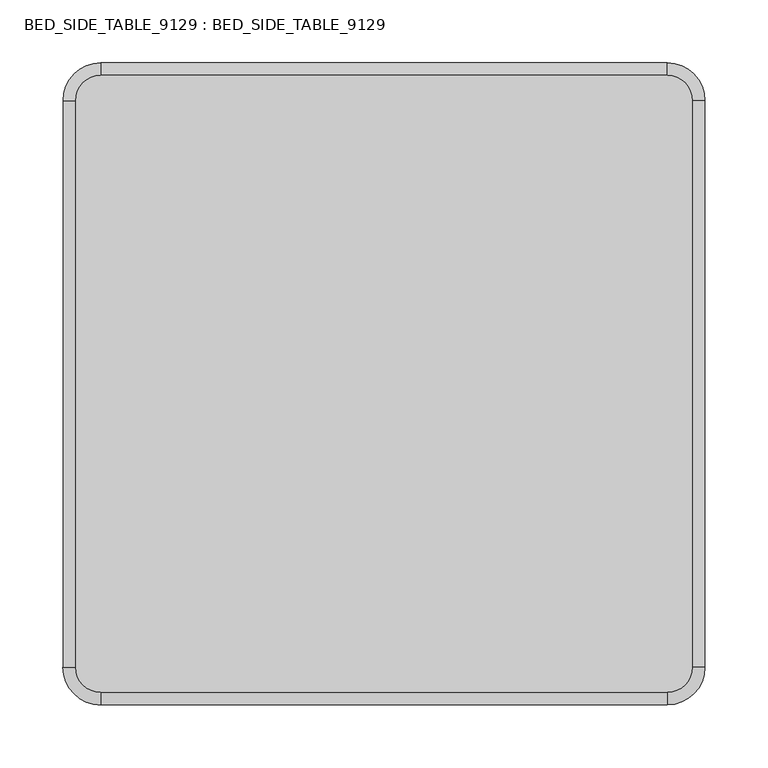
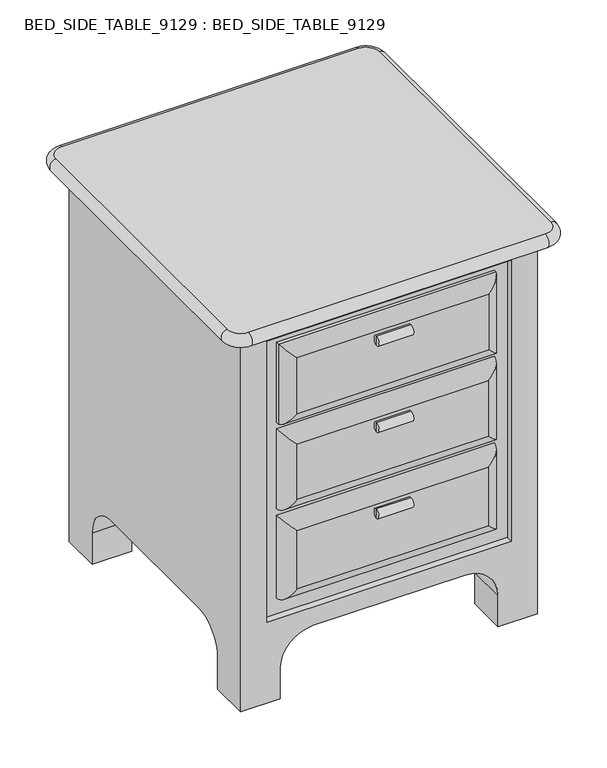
"""IFC4 building model written with IfcOpenShell, lengths in millimetres: furniture geometry, BED_SIDE_TABLE_9129 : BED_SIDE_TABLE_9129."""

from ifc_helpers import new_model, si_unit, point, frame, origin, place, context, project, spatial, polyline, circle_curve, ellipse_curve, trimmed, source, transform, mapped, element, save
from ifc_brep_helpers import plane_surface, cylinder_surface, revolved_surface, advanced_brep


def bed_side_table_9129_bed_side_table_9129_f863d0ea(model_context):
    return source(origin(), model_context, "Body", "AdvancedBrep", [
        advanced_brep(
        [(64.1710576, -203.2220246, 258.3333333), (64.1710576, -203.2220246, 265.7120474), (64.1710576, -203.2220246, 250.9546193), (11.6566154, -203.2220246, 250.9546193), (11.6566154, -203.2220246, 265.7120474), (11.6566154, -203.2220246, 258.3333333)],
        [
            (0, 1),
            (1, 2, circle_curve(frame((64.1710576, -203.2220246, 258.3333333), z_axis=(1.0, 0.0, 0.0), x_axis=(0.0, 0.0, 1.0)), 7.378714)),
            (2, 0),
            (2, 1, circle_curve(frame((64.1710576, -203.2220246, 258.3333333), z_axis=(1.0, 0.0, 0.0), x_axis=(0.0, 0.0, 1.0)), 7.378714)),
            (3, 4, circle_curve(frame((11.6566154, -203.2220246, 258.3333333), z_axis=(-1.0, 0.0, 0.0), x_axis=(0.0, 0.0, 1.0)), 7.378714)),
            (4, 5),
            (5, 3),
            (4, 3, circle_curve(frame((11.6566154, -203.2220246, 258.3333333), z_axis=(-1.0, 0.0, 0.0), x_axis=(0.0, 0.0, 1.0)), 7.378714)),
            (1, 4),
            (3, 2),
        ],
        [
            plane_surface(frame((64.1710576, -203.2220246, 258.3333333), z_axis=(1.0, 0.0, 0.0), x_axis=(0.0, 0.0, 1.0))),
            plane_surface(frame((11.6566154, -203.2220246, 258.3333333), z_axis=(-1.0, 0.0, 0.0), x_axis=(0.0, 0.0, 1.0))),
            cylinder_surface(frame((36.6566154, -203.2220246, 258.3333333), z_axis=(1.0, 0.0, 0.0), x_axis=(0.0, 0.0, 1.0)), 7.378714),
        ],
        [
            (0, [[1, 2, 3]]),
            (0, [[-3, 4, -1]]),
            (1, [[5, 6, 7]]),
            (1, [[8, -7, -6]]),
            (2, [[-2, 9, -5, 10]]),
            (2, [[-4, -10, -8, -9]]),
        ],
    ),
        advanced_brep(
        [(64.1710576, -203.2220246, 396.6666667), (64.1710576, -203.2220246, 404.0453807), (64.1710576, -203.2220246, 389.2879526), (11.6566154, -203.2220246, 389.2879526), (11.6566154, -203.2220246, 404.0453807), (11.6566154, -203.2220246, 396.6666667)],
        [
            (0, 1),
            (1, 2, circle_curve(frame((64.1710576, -203.2220246, 396.6666667), z_axis=(1.0, 0.0, 0.0), x_axis=(0.0, 0.0, 1.0)), 7.378714)),
            (2, 0),
            (2, 1, circle_curve(frame((64.1710576, -203.2220246, 396.6666667), z_axis=(1.0, 0.0, 0.0), x_axis=(0.0, 0.0, 1.0)), 7.378714)),
            (3, 4, circle_curve(frame((11.6566154, -203.2220246, 396.6666667), z_axis=(-1.0, 0.0, 0.0), x_axis=(0.0, 0.0, 1.0)), 7.378714)),
            (4, 5),
            (5, 3),
            (4, 3, circle_curve(frame((11.6566154, -203.2220246, 396.6666667), z_axis=(-1.0, 0.0, 0.0), x_axis=(0.0, 0.0, 1.0)), 7.378714)),
            (1, 4),
            (3, 2),
        ],
        [
            plane_surface(frame((64.1710576, -203.2220246, 396.6666667), z_axis=(1.0, 0.0, 0.0), x_axis=(0.0, 0.0, 1.0))),
            plane_surface(frame((11.6566154, -203.2220246, 396.6666667), z_axis=(-1.0, 0.0, 0.0), x_axis=(0.0, 0.0, 1.0))),
            cylinder_surface(frame((36.6566154, -203.2220246, 396.6666667), z_axis=(1.0, 0.0, 0.0), x_axis=(0.0, 0.0, 1.0)), 7.378714),
        ],
        [
            (0, [[1, 2, 3]]),
            (0, [[-3, 4, -1]]),
            (1, [[5, 6, 7]]),
            (1, [[8, -7, -6]]),
            (2, [[-2, 9, -5, 10]]),
            (2, [[-4, -10, -8, -9]]),
        ],
    ),
        advanced_brep(
        [(64.1710576, -203.2220246, 535.0), (64.1710576, -203.2220246, 542.378714), (64.1710576, -203.2220246, 527.621286), (11.6566154, -203.2220246, 527.621286), (11.6566154, -203.2220246, 542.378714), (11.6566154, -203.2220246, 535.0)],
        [
            (0, 1),
            (1, 2, circle_curve(frame((64.1710576, -203.2220246, 535.0), z_axis=(1.0, 0.0, 0.0), x_axis=(0.0, 0.0, 1.0)), 7.378714)),
            (2, 0),
            (2, 1, circle_curve(frame((64.1710576, -203.2220246, 535.0), z_axis=(1.0, 0.0, 0.0), x_axis=(0.0, 0.0, 1.0)), 7.378714)),
            (3, 4, circle_curve(frame((11.6566154, -203.2220246, 535.0), z_axis=(-1.0, 0.0, 0.0), x_axis=(0.0, 0.0, 1.0)), 7.378714)),
            (4, 5),
            (5, 3),
            (4, 3, circle_curve(frame((11.6566154, -203.2220246, 535.0), z_axis=(-1.0, 0.0, 0.0), x_axis=(0.0, 0.0, 1.0)), 7.378714)),
            (1, 4),
            (3, 2),
        ],
        [
            plane_surface(frame((64.1710576, -203.2220246, 535.0), z_axis=(1.0, 0.0, 0.0), x_axis=(0.0, 0.0, 1.0))),
            plane_surface(frame((11.6566154, -203.2220246, 535.0), z_axis=(-1.0, 0.0, 0.0), x_axis=(0.0, 0.0, 1.0))),
            cylinder_surface(frame((36.6566154, -203.2220246, 535.0), z_axis=(1.0, 0.0, 0.0), x_axis=(0.0, 0.0, 1.0)), 7.378714),
        ],
        [
            (0, [[1, 2, 3]]),
            (0, [[-3, 4, -1]]),
            (1, [[5, 6, 7]]),
            (1, [[8, -7, -6]]),
            (2, [[-2, 9, -5, 10]]),
            (2, [[-4, -10, -8, -9]]),
        ],
    ),
        advanced_brep(
        [(205.0, -177.5292073, 565.0), (205.0, -177.5292073, 436.6666667), (-125.0, -177.5292073, 436.6666667), (-125.0, -177.5292073, 565.0), (-105.5943818, -197.5292073, 545.5943818), (-105.5943818, -197.5292073, 456.0722849), (185.5943818, -197.5292073, 456.0722849), (185.5943818, -197.5292073, 545.5943818), (205.0, -182.3688336, 565.0), (205.0, -182.3688336, 436.6666667), (-125.0, -182.3688336, 436.6666667), (-125.0, -182.3688336, 565.0)],
        [
            (0, 1),
            (1, 2),
            (2, 3),
            (3, 0),
            (4, 5),
            (5, 6),
            (6, 7),
            (7, 4),
            (0, 8),
            (8, 9),
            (9, 1),
            (9, 10),
            (10, 2),
            (10, 11),
            (11, 3),
            (11, 8),
            (10, 5, ellipse_curve(frame((-105.5943818, -177.5292073, 456.0722849), z_axis=(-0.7071067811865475, 0.0, 0.7071067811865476), x_axis=(-0.7071067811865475, 0.0, -0.7071067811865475)), 28.2842712, 20.0)),
            (4, 11, ellipse_curve(frame((-105.5943818, -177.5292073, 545.5943818), z_axis=(-0.7071067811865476, 0.0, -0.7071067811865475), x_axis=(0.7071067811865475, 0.0, -0.7071067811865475)), 28.2842712, 20.0)),
            (9, 6, ellipse_curve(frame((185.5943818, -177.5292073, 456.0722849), z_axis=(-0.7071067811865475, 0.0, -0.7071067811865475), x_axis=(0.7071067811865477, 0.0, -0.7071067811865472)), 28.2842712, 20.0)),
            (8, 7, ellipse_curve(frame((185.5943818, -177.5292073, 545.5943818), z_axis=(0.7071067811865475, 0.0, -0.7071067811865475), x_axis=(0.7071067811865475, 0.0, 0.7071067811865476)), 28.2842712, 20.0)),
        ],
        [
            plane_surface(frame((205.0, -177.5292073, 565.0), z_axis=(0.0, 1.0, 0.0), x_axis=(0.0, 0.0, -1.0))),
            plane_surface(frame((205.0, -197.5292073, 565.0), z_axis=(0.0, -1.0, 0.0), x_axis=(0.0, 0.0, 1.0))),
            plane_surface(frame((205.0, -177.5292073, 565.0), z_axis=(1.0, 0.0, 0.0), x_axis=(0.0, -1.0, 0.0))),
            plane_surface(frame((205.0, -177.5292073, 436.6666667), z_axis=(0.0, 0.0, -1.0), x_axis=(0.0, -1.0, 0.0))),
            plane_surface(frame((-125.0, -177.5292073, 436.6666667), z_axis=(-1.0, 0.0, 0.0), x_axis=(0.0, -1.0, 0.0))),
            plane_surface(frame((-125.0, -177.5292073, 565.0), z_axis=(0.0, 0.0, 1.0), x_axis=(0.0, -1.0, 0.0))),
            cylinder_surface(frame((-105.5943818, -177.5292073, 565.0), z_axis=(0.0, 0.0, -1.0), x_axis=(0.0, -1.0, 0.0)), 20.0),
            cylinder_surface(frame((-125.0, -177.5292073, 456.0722849), z_axis=(1.0, 0.0, 0.0), x_axis=(0.0, -1.0, 0.0)), 20.0),
            cylinder_surface(frame((185.5943818, -177.5292073, 436.6666667), z_axis=(0.0, 0.0, 1.0), x_axis=(0.0, -1.0, 0.0)), 20.0),
            cylinder_surface(frame((205.0, -177.5292073, 545.5943818), z_axis=(-1.0, 0.0, 0.0), x_axis=(0.0, -1.0, 0.0)), 20.0),
        ],
        [
            (0, [[1, 2, 3, 4]]),
            (1, [[5, 6, 7, 8]]),
            (2, [[-1, 9, 10, 11]]),
            (3, [[-2, -11, 12, 13]]),
            (4, [[-3, -13, 14, 15]]),
            (5, [[-4, -15, 16, -9]]),
            (6, [[17, -5, 18, -14]]),
            (7, [[19, -6, -17, -12]]),
            (8, [[20, -7, -19, -10]]),
            (9, [[-20, -16, -18, -8]]),
        ],
    ),
        advanced_brep(
        [(-125.0, -177.5292073, 298.3333333), (-125.0, -177.5292073, 426.6666667), (205.0, -177.5292073, 426.6666667), (205.0, -177.5292073, 298.3333333), (-105.0, -197.5292073, 406.6666667), (-105.0, -197.5292073, 318.3333333), (185.0, -197.5292073, 318.3333333), (185.0, -197.5292073, 406.6666667)],
        [
            (0, 1),
            (1, 2),
            (2, 3),
            (3, 0),
            (4, 5),
            (5, 6),
            (6, 7),
            (7, 4),
            (0, 5, ellipse_curve(frame((-105.0, -177.5292073, 318.3333333), z_axis=(-0.7071067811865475, 0.0, 0.7071067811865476), x_axis=(-0.7071067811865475, 0.0, -0.7071067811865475)), 28.2842712, 20.0)),
            (4, 1, ellipse_curve(frame((-105.0, -177.5292073, 406.6666667), z_axis=(-0.7071067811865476, 0.0, -0.7071067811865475), x_axis=(0.7071067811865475, 0.0, -0.7071067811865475)), 28.2842712, 20.0)),
            (3, 6, ellipse_curve(frame((185.0, -177.5292073, 318.3333333), z_axis=(-0.7071067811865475, 0.0, -0.7071067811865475), x_axis=(0.7071067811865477, 0.0, -0.7071067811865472)), 28.2842712, 20.0)),
            (2, 7, ellipse_curve(frame((185.0, -177.5292073, 406.6666667), z_axis=(0.7071067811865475, 0.0, -0.7071067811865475), x_axis=(0.7071067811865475, 0.0, 0.7071067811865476)), 28.2842712, 20.0)),
        ],
        [
            plane_surface(frame((205.0, -177.5292073, 565.0), z_axis=(0.0, 1.0, 0.0), x_axis=(0.0, 0.0, -1.0))),
            plane_surface(frame((205.0, -197.5292073, 565.0), z_axis=(0.0, -1.0, 0.0), x_axis=(0.0, 0.0, 1.0))),
            cylinder_surface(frame((-105.0, -177.5292073, 426.6666667), z_axis=(0.0, 0.0, -1.0), x_axis=(0.0, -1.0, 0.0)), 20.0),
            cylinder_surface(frame((-125.0, -177.5292073, 318.3333333), z_axis=(1.0, 0.0, 0.0), x_axis=(0.0, -1.0, 0.0)), 20.0),
            cylinder_surface(frame((185.0, -177.5292073, 298.3333333), z_axis=(0.0, 0.0, 1.0), x_axis=(0.0, -1.0, 0.0)), 20.0),
            cylinder_surface(frame((205.0, -177.5292073, 406.6666667), z_axis=(-1.0, 0.0, 0.0), x_axis=(0.0, -1.0, 0.0)), 20.0),
        ],
        [
            (0, [[1, 2, 3, 4]]),
            (1, [[5, 6, 7, 8]]),
            (2, [[9, -5, 10, -1]]),
            (3, [[-9, -4, 11, -6]]),
            (4, [[-11, -3, 12, -7]]),
            (5, [[-10, -8, -12, -2]]),
        ],
    ),
        advanced_brep(
        [(-125.0, -177.5292073, 155.0), (-125.0, -177.5292073, 288.3333333), (205.0, -177.5292073, 288.3333333), (205.0, -177.5292073, 155.0), (-105.0, -197.5292073, 268.3333333), (-105.0, -197.5292073, 175.0), (185.0, -197.5292073, 175.0), (185.0, -197.5292073, 268.3333333)],
        [
            (0, 1),
            (1, 2),
            (2, 3),
            (3, 0),
            (4, 5),
            (5, 6),
            (6, 7),
            (7, 4),
            (0, 5, ellipse_curve(frame((-105.0, -177.5292073, 175.0), z_axis=(-0.7071067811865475, 0.0, 0.7071067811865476), x_axis=(-0.7071067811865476, 0.0, -0.7071067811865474)), 28.2842712, 20.0)),
            (4, 1, ellipse_curve(frame((-105.0, -177.5292073, 268.3333333), z_axis=(-0.7071067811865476, 0.0, -0.7071067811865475), x_axis=(0.7071067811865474, 0.0, -0.7071067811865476)), 28.2842712, 20.0)),
            (3, 6, ellipse_curve(frame((185.0, -177.5292073, 175.0), z_axis=(-0.7071067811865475, 0.0, -0.7071067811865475), x_axis=(0.7071067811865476, 0.0, -0.7071067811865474)), 28.2842712, 20.0)),
            (2, 7, ellipse_curve(frame((185.0, -177.5292073, 268.3333333), z_axis=(0.7071067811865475, 0.0, -0.7071067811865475), x_axis=(0.7071067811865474, 0.0, 0.7071067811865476)), 28.2842712, 20.0)),
        ],
        [
            plane_surface(frame((205.0, -177.5292073, 565.0), z_axis=(0.0, 1.0, 0.0), x_axis=(0.0, 0.0, -1.0))),
            plane_surface(frame((205.0, -197.5292073, 565.0), z_axis=(0.0, -1.0, 0.0), x_axis=(0.0, 0.0, 1.0))),
            cylinder_surface(frame((-105.0, -177.5292073, 288.3333333), z_axis=(0.0, 0.0, -1.0), x_axis=(0.0, -1.0, 0.0)), 20.0),
            cylinder_surface(frame((-125.0, -177.5292073, 175.0), z_axis=(1.0, 0.0, 0.0), x_axis=(0.0, -1.0, 0.0)), 20.0),
            cylinder_surface(frame((185.0, -177.5292073, 155.0), z_axis=(0.0, 0.0, 1.0), x_axis=(0.0, -1.0, 0.0)), 20.0),
            cylinder_surface(frame((205.0, -177.5292073, 268.3333333), z_axis=(-1.0, 0.0, 0.0), x_axis=(0.0, -1.0, 0.0)), 20.0),
        ],
        [
            (0, [[1, 2, 3, 4]]),
            (1, [[5, 6, 7, 8]]),
            (2, [[9, -5, 10, -1]]),
            (3, [[-9, -4, 11, -6]]),
            (4, [[-11, -3, 12, -7]]),
            (5, [[-10, -8, -12, -2]]),
        ],
    ),
        advanced_brep(
        [(-205.0, 262.4707927, 600.0), (-185.0, 282.4707927, 600.0), (265.0, 282.4707927, 600.0), (285.0, 262.4707927, 600.0), (285.0, -187.5292073, 600.0), (265.0, -207.5292073, 600.0), (-185.0, -207.5292073, 600.0), (-205.0, -187.5292073, 600.0), (-185.0, 282.4707927, 620.0), (-205.0, 262.4707927, 620.0), (-205.0, -187.5292073, 620.0), (-185.0, -207.5292073, 620.0), (265.0, -207.5292073, 620.0), (285.0, -187.5292073, 620.0), (285.0, 262.4707927, 620.0), (265.0, 282.4707927, 620.0), (-185.0, 292.4707927, 610.0000125), (-215.0, 262.4707927, 610.0000123), (-215.0, -187.5292073, 610.0), (-185.0, -217.5292073, 610.0000122), (265.0, -217.5292073, 610.0), (295.0, -187.5292073, 610.0000111), (295.0, 262.4707927, 610.0), (265.0, 292.4707927, 610.0000096)],
        [
            (0, 1, circle_curve(frame((-185.0, 262.4707927, 600.0), z_axis=(0.0, 0.0, -1.0), x_axis=(0.0, 1.0, 0.0)), 20.0)),
            (1, 2),
            (2, 3, circle_curve(frame((265.0, 262.4707927, 600.0), z_axis=(0.0, 0.0, -1.0), x_axis=(1.0, 0.0, 0.0)), 20.0)),
            (3, 4),
            (4, 5, circle_curve(frame((265.0, -187.5292073, 600.0), z_axis=(0.0, 0.0, -1.0), x_axis=(0.0, -1.0, 0.0)), 20.0)),
            (5, 6),
            (6, 7, circle_curve(frame((-185.0, -187.5292073, 600.0), z_axis=(0.0, 0.0, -1.0), x_axis=(-1.0, 0.0, 0.0)), 20.0)),
            (7, 0),
            (8, 9, circle_curve(frame((-185.0, 262.4707927, 620.0), z_axis=(0.0, 0.0, 1.0), x_axis=(0.0, 1.0, 0.0)), 20.0)),
            (9, 10),
            (10, 11, circle_curve(frame((-185.0, -187.5292073, 620.0), z_axis=(0.0, 0.0, 1.0), x_axis=(-1.0, 0.0, 0.0)), 20.0)),
            (11, 12),
            (12, 13, circle_curve(frame((265.0, -187.5292073, 620.0), z_axis=(0.0, 0.0, 1.0), x_axis=(0.0, -1.0, 0.0)), 20.0)),
            (13, 14),
            (14, 15, circle_curve(frame((265.0, 262.4707927, 620.0), z_axis=(0.0, 0.0, 1.0), x_axis=(1.0, 0.0, 0.0)), 20.0)),
            (15, 8),
            (8, 16, circle_curve(frame((-185.0, 282.4707927, 610.0), z_axis=(-1.0, 0.0, 0.0), x_axis=(0.0, -1.0, 0.0)), 10.0)),
            (16, 1, circle_curve(frame((-185.0, 282.4707927, 610.0), z_axis=(-1.0, 0.0, 0.0), x_axis=(0.0, -1.0, 0.0)), 10.0)),
            (0, 17, circle_curve(frame((-205.0, 262.4707927, 610.0), z_axis=(0.0, 1.0, 0.0), x_axis=(1.0, 0.0, 0.0)), 10.0)),
            (17, 9, circle_curve(frame((-205.0, 262.4707927, 610.0), z_axis=(0.0, 1.0, 0.0), x_axis=(1.0, 0.0, 0.0)), 10.0)),
            (7, 18, circle_curve(frame((-205.0, -187.5292073, 610.0), z_axis=(0.0, 1.0, 0.0), x_axis=(1.0, 0.0, 0.0)), 10.0)),
            (18, 10, circle_curve(frame((-205.0, -187.5292073, 610.0), z_axis=(0.0, 1.0, 0.0), x_axis=(1.0, 0.0, 0.0)), 10.0)),
            (6, 19, circle_curve(frame((-185.0, -207.5292073, 610.0), z_axis=(-1.0, 0.0, 0.0), x_axis=(0.0, 1.0, 0.0)), 10.0)),
            (19, 11, circle_curve(frame((-185.0, -207.5292073, 610.0), z_axis=(-1.0, 0.0, 0.0), x_axis=(0.0, 1.0, 0.0)), 10.0)),
            (5, 20, circle_curve(frame((265.0, -207.5292073, 610.0), z_axis=(-1.0, 0.0, 0.0), x_axis=(0.0, 1.0, 0.0)), 10.0)),
            (20, 12, circle_curve(frame((265.0, -207.5292073, 610.0), z_axis=(-1.0, 0.0, 0.0), x_axis=(0.0, 1.0, 0.0)), 10.0)),
            (4, 21, circle_curve(frame((285.0, -187.5292073, 610.0), z_axis=(0.0, -1.0, 0.0), x_axis=(-1.0, 0.0, 0.0)), 10.0)),
            (21, 13, circle_curve(frame((285.0, -187.5292073, 610.0), z_axis=(0.0, -1.0, 0.0), x_axis=(-1.0, 0.0, 0.0)), 10.0)),
            (3, 22, circle_curve(frame((285.0, 262.4707927, 610.0), z_axis=(0.0, -1.0, 0.0), x_axis=(-1.0, 0.0, 0.0)), 10.0)),
            (22, 14, circle_curve(frame((285.0, 262.4707927, 610.0), z_axis=(0.0, -1.0, 0.0), x_axis=(-1.0, 0.0, 0.0)), 10.0)),
            (2, 23, circle_curve(frame((265.0, 282.4707927, 610.0), z_axis=(1.0, 0.0, 0.0), x_axis=(0.0, -1.0, 0.0)), 10.0)),
            (23, 15, circle_curve(frame((265.0, 282.4707927, 610.0), z_axis=(1.0, 0.0, 0.0), x_axis=(0.0, -1.0, 0.0)), 10.0)),
        ],
        [
            plane_surface(frame((-185.0, 292.4707927, 600.0), z_axis=(0.0, 0.0, -1.0), x_axis=(1.0, 0.0, 0.0))),
            plane_surface(frame((-185.0, 292.4707927, 620.0), z_axis=(0.0, 0.0, 1.0), x_axis=(-1.0, 0.0, 0.0))),
            revolved_surface(trimmed(ellipse_curve(frame((-185.0, 282.4707927, 610.0), z_axis=(1.0, 0.0, 0.0), x_axis=(0.0, -1.0, 0.0)), 10.0, 10.0), [point((-185.0, 282.4707927, 600.0))], [point((-185.0, 282.4707927, 620.0))], True, "CARTESIAN"), (-185.0, 262.4707927, 620.0), (0.0, 0.0, 1.0)),
            cylinder_surface(frame((-205.0, 262.4707927, 610.0), z_axis=(0.0, -1.0, 0.0), x_axis=(1.0, 0.0, 0.0)), 10.0),
            revolved_surface(trimmed(ellipse_curve(frame((-205.0, -187.5292073, 610.0), z_axis=(0.0, 1.0, 0.0), x_axis=(1.0, 0.0, 0.0)), 10.0, 10.0), [point((-205.0, -187.5292073, 600.0))], [point((-205.0, -187.5292073, 620.0))], True, "CARTESIAN"), (-185.0, -187.5292073, 620.0), (0.0, 0.0, 1.0)),
            cylinder_surface(frame((-185.0, -207.5292073, 610.0), z_axis=(1.0, 0.0, 0.0), x_axis=(0.0, 1.0, 0.0)), 10.0),
            revolved_surface(trimmed(ellipse_curve(frame((265.0, -207.5292073, 610.0), z_axis=(-1.0, 0.0, 0.0), x_axis=(0.0, 1.0, 0.0)), 10.0, 10.0), [point((265.0, -207.5292073, 600.0))], [point((265.0, -207.5292073, 620.0))], True, "CARTESIAN"), (265.0, -187.5292073, 620.0), (0.0, 0.0, 1.0)),
            cylinder_surface(frame((285.0, -187.5292073, 610.0), z_axis=(0.0, 1.0, 0.0), x_axis=(-1.0, 0.0, 0.0)), 10.0),
            revolved_surface(trimmed(ellipse_curve(frame((285.0, 262.4707927, 610.0), z_axis=(0.0, -1.0, 0.0), x_axis=(-1.0, 0.0, 0.0)), 10.0, 10.0), [point((285.0, 262.4707927, 600.0))], [point((285.0, 262.4707927, 620.0))], True, "CARTESIAN"), (265.0, 262.4707927, 620.0), (0.0, 0.0, 1.0)),
            cylinder_surface(frame((265.0, 282.4707927, 610.0), z_axis=(-1.0, 0.0, 0.0), x_axis=(0.0, -1.0, 0.0)), 10.0),
        ],
        [
            (0, [[1, 2, 3, 4, 5, 6, 7, 8]]),
            (1, [[9, 10, 11, 12, 13, 14, 15, 16]]),
            (2, [[17, 18, -1, 19, 20, -9]]),
            (3, [[-19, -8, 21, 22, -10, -20]]),
            (4, [[-21, -7, 23, 24, -11, -22]]),
            (5, [[-23, -6, 25, 26, -12, -24]]),
            (6, [[-25, -5, 27, 28, -13, -26]]),
            (7, [[-27, -4, 29, 30, -14, -28]]),
            (8, [[31, 32, -15, -30, -29, -3]]),
            (9, [[-31, -2, -18, -17, -16, -32]]),
        ],
    ),
        advanced_brep(
        [(265.0, 262.4707927, 600.0), (265.0, 262.4707927, 0.0), (205.0, 262.4707927, 0.0), (205.0, 262.4707927, 50.0), (155.0, 262.4707927, 100.0), (-75.0, 262.4707927, 100.0), (-125.0, 262.4707927, 50.0), (-125.0, 262.4707927, 0.0), (-185.0, 262.4707927, 0.0), (-185.0, 262.4707927, 600.0), (265.0, -187.5292073, 600.0), (-185.0, -187.5292073, 600.0), (-185.0, -187.5292073, 0.0), (-125.0, -187.5292073, 0.0), (-125.0, -187.5292073, 50.0), (-75.0, -187.5292073, 100.0), (155.0, -187.5292073, 100.0), (205.0, -187.5292073, 50.0), (205.0, -187.5292073, 0.0), (265.0, -187.5292073, 0.0), (-145.0, -187.5292073, 580.0), (225.0, -187.5292073, 580.0), (225.0, -187.5292073, 130.0), (-145.0, -187.5292073, 130.0), (265.0, -127.5292073, 0.0), (265.0, -127.5292073, 50.0), (265.0, -77.5292073, 100.0), (265.0, 152.4707927, 100.0), (265.0, 202.4707927, 50.0), (265.0, 202.4707927, 0.0), (265.0, -102.5292073, 570.0), (265.0, 177.4707927, 570.0), (265.0, 202.4707927, 545.0), (265.0, 202.4707927, 180.0), (265.0, 177.4707927, 155.0), (265.0, -102.5292073, 155.0), (265.0, -127.5292073, 180.0), (265.0, -127.5292073, 545.0), (265.0, 177.4707927, 550.0), (265.0, -102.5292073, 550.0), (265.0, -107.5292073, 545.0), (265.0, -107.5292073, 180.0), (265.0, -102.5292073, 175.0), (265.0, 177.4707927, 175.0), (265.0, 182.4707927, 180.0), (265.0, 182.4707927, 545.0), (205.0, 202.4707927, 0.0), (-125.0, 202.4707927, 0.0), (-185.0, 202.4707927, 0.0), (-185.0, -127.5292073, 0.0), (-125.0, -127.5292073, 0.0), (205.0, -127.5292073, 0.0), (-185.0, 202.4707927, 50.0), (-185.0, 152.4707927, 100.0), (-185.0, -77.5292073, 100.0), (-185.0, -127.5292073, 50.0), (-75.0, 152.4707927, 100.0), (-125.0, 202.4707927, 50.0), (-125.0, -127.5292073, 50.0), (-75.0, -77.5292073, 100.0), (155.0, 152.4707927, 100.0), (155.0, -77.5292073, 100.0), (205.0, 202.4707927, 50.0), (205.0, -127.5292073, 50.0), (-145.0, -177.5292073, 580.0), (-145.0, -177.5292073, 130.0), (225.0, -177.5292073, 130.0), (225.0, -177.5292073, 580.0), (255.0, 177.4707927, 570.0), (255.0, -102.5292073, 570.0), (255.0, -127.5292073, 545.0), (255.0, -127.5292073, 180.0), (255.0, -102.5292073, 155.0), (255.0, 177.4707927, 155.0), (255.0, 202.4707927, 180.0), (255.0, 202.4707927, 545.0), (255.0, -102.5292073, 550.0), (255.0, 177.4707927, 550.0), (255.0, 182.4707927, 545.0), (255.0, 182.4707927, 180.0), (255.0, 177.4707927, 175.0), (255.0, -102.5292073, 175.0), (255.0, -107.5292073, 180.0), (255.0, -107.5292073, 545.0)],
        [
            (0, 1),
            (1, 2),
            (2, 3),
            (3, 4, circle_curve(frame((155.0, 262.4707927, 50.0), z_axis=(0.0, -1.0, 0.0), x_axis=(-1.0, 0.0, 0.0)), 50.0)),
            (4, 5),
            (5, 6, circle_curve(frame((-75.0, 262.4707927, 50.0), z_axis=(0.0, -1.0, 0.0), x_axis=(-1.0, 0.0, 0.0)), 50.0)),
            (6, 7),
            (7, 8),
            (8, 9),
            (9, 0),
            (10, 11),
            (11, 12),
            (12, 13),
            (13, 14),
            (14, 15, circle_curve(frame((-75.0, -187.5292073, 50.0), z_axis=(0.0, 1.0, 0.0), x_axis=(-1.0, 0.0, 0.0)), 50.0)),
            (15, 16),
            (16, 17, circle_curve(frame((155.0, -187.5292073, 50.0), z_axis=(0.0, 1.0, 0.0), x_axis=(-1.0, 0.0, 0.0)), 50.0)),
            (17, 18),
            (18, 19),
            (19, 10),
            (20, 21),
            (21, 22),
            (22, 23),
            (23, 20),
            (0, 10),
            (19, 24),
            (24, 25),
            (25, 26, circle_curve(frame((265.0, -77.5292073, 50.0), z_axis=(-1.0, 0.0, 0.0), x_axis=(0.0, 1.0, 0.0)), 50.0)),
            (26, 27),
            (27, 28, circle_curve(frame((265.0, 152.4707927, 50.0), z_axis=(-1.0, 0.0, 0.0), x_axis=(0.0, 1.0, 0.0)), 50.0)),
            (28, 29),
            (29, 1),
            (30, 31),
            (31, 32, circle_curve(frame((265.0, 177.4707927, 545.0), z_axis=(-1.0, 0.0, 0.0), x_axis=(0.0, 1.0, 0.0)), 25.0)),
            (32, 33),
            (33, 34, circle_curve(frame((265.0, 177.4707927, 180.0), z_axis=(-1.0, 0.0, 0.0), x_axis=(0.0, 1.0, 0.0)), 25.0)),
            (34, 35),
            (35, 36, circle_curve(frame((265.0, -102.5292073, 180.0), z_axis=(-1.0, 0.0, 0.0), x_axis=(0.0, 1.0, 0.0)), 25.0)),
            (36, 37),
            (37, 30, circle_curve(frame((265.0, -102.5292073, 545.0), z_axis=(-1.0, 0.0, 0.0), x_axis=(0.0, 1.0, 0.0)), 25.0)),
            (38, 39),
            (39, 40, circle_curve(frame((265.0, -102.5292073, 545.0), z_axis=(1.0, 0.0, 0.0), x_axis=(0.0, 1.0, 0.0)), 5.0)),
            (40, 41),
            (41, 42, circle_curve(frame((265.0, -102.5292073, 180.0), z_axis=(1.0, 0.0, 0.0), x_axis=(0.0, 1.0, 0.0)), 5.0)),
            (42, 43),
            (43, 44, circle_curve(frame((265.0, 177.4707927, 180.0), z_axis=(1.0, 0.0, 0.0), x_axis=(0.0, 1.0, 0.0)), 5.0)),
            (44, 45),
            (45, 38, circle_curve(frame((265.0, 177.4707927, 545.0), z_axis=(1.0, 0.0, 0.0), x_axis=(0.0, 1.0, 0.0)), 5.0)),
            (29, 46),
            (46, 2),
            (7, 47),
            (47, 48),
            (48, 8),
            (12, 49),
            (49, 50),
            (50, 13),
            (18, 51),
            (51, 24),
            (48, 52),
            (52, 53, circle_curve(frame((-185.0, 152.4707927, 50.0), z_axis=(1.0, 0.0, 0.0), x_axis=(0.0, 1.0, 0.0)), 50.0)),
            (53, 54),
            (54, 55, circle_curve(frame((-185.0, -77.5292073, 50.0), z_axis=(1.0, 0.0, 0.0), x_axis=(0.0, 1.0, 0.0)), 50.0)),
            (55, 49),
            (11, 9),
            (5, 56),
            (56, 57, ellipse_curve(frame((-75.0, 152.4707927, 50.0), z_axis=(-0.7071067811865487, -0.7071067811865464, 0.0), x_axis=(-0.7071067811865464, 0.7071067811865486, 0.0)), 70.7106781, 50.0)),
            (57, 6),
            (14, 58),
            (58, 59, ellipse_curve(frame((-75.0, -77.5292073, 50.0), z_axis=(-0.7071067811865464, 0.7071067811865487, 0.0), x_axis=(0.7071067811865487, 0.7071067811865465, 0.0)), 70.7106781, 50.0)),
            (59, 15),
            (4, 60),
            (60, 27),
            (26, 61),
            (61, 16),
            (59, 54),
            (53, 56),
            (3, 62),
            (62, 60, ellipse_curve(frame((155.0, 152.4707927, 50.0), z_axis=(0.7071067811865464, -0.7071067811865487, 0.0), x_axis=(0.7071067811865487, 0.7071067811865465, 0.0)), 70.7106781, 50.0)),
            (61, 63, ellipse_curve(frame((155.0, -77.5292073, 50.0), z_axis=(0.7071067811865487, 0.7071067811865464, 0.0), x_axis=(-0.7071067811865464, 0.7071067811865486, 0.0)), 70.7106781, 50.0)),
            (63, 17),
            (46, 62),
            (63, 51),
            (57, 47),
            (50, 58),
            (25, 63),
            (58, 55),
            (57, 52),
            (28, 62),
            (64, 65),
            (65, 66),
            (66, 67),
            (67, 64),
            (67, 21),
            (20, 64),
            (66, 22),
            (65, 23),
            (68, 69),
            (69, 70, circle_curve(frame((255.0, -102.5292073, 545.0), z_axis=(1.0, 0.0, 0.0), x_axis=(0.0, 1.0, 0.0)), 25.0)),
            (70, 71),
            (71, 72, circle_curve(frame((255.0, -102.5292073, 180.0), z_axis=(1.0, 0.0, 0.0), x_axis=(0.0, 1.0, 0.0)), 25.0)),
            (72, 73),
            (73, 74, circle_curve(frame((255.0, 177.4707927, 180.0), z_axis=(1.0, 0.0, 0.0), x_axis=(0.0, 1.0, 0.0)), 25.0)),
            (74, 75),
            (75, 68, circle_curve(frame((255.0, 177.4707927, 545.0), z_axis=(1.0, 0.0, 0.0), x_axis=(0.0, 1.0, 0.0)), 25.0)),
            (76, 77),
            (77, 78, circle_curve(frame((255.0, 177.4707927, 545.0), z_axis=(-1.0, 0.0, 0.0), x_axis=(0.0, 1.0, 0.0)), 5.0)),
            (78, 79),
            (79, 80, circle_curve(frame((255.0, 177.4707927, 180.0), z_axis=(-1.0, 0.0, 0.0), x_axis=(0.0, 1.0, 0.0)), 5.0)),
            (80, 81),
            (81, 82, circle_curve(frame((255.0, -102.5292073, 180.0), z_axis=(-1.0, 0.0, 0.0), x_axis=(0.0, 1.0, 0.0)), 5.0)),
            (82, 83),
            (83, 76, circle_curve(frame((255.0, -102.5292073, 545.0), z_axis=(-1.0, 0.0, 0.0), x_axis=(0.0, 1.0, 0.0)), 5.0)),
            (68, 31),
            (30, 69),
            (37, 70),
            (36, 71),
            (35, 72),
            (34, 73),
            (33, 74),
            (32, 75),
            (76, 39),
            (38, 77),
            (45, 78),
            (44, 79),
            (43, 80),
            (42, 81),
            (41, 82),
            (40, 83),
        ],
        [
            plane_surface(frame((265.0, 262.4707927, 600.0), z_axis=(0.0, 1.0, 0.0), x_axis=(0.0, 0.0, -1.0))),
            plane_surface(frame((265.0, -187.5292073, 600.0), z_axis=(0.0, -1.0, 0.0), x_axis=(0.0, 0.0, 1.0))),
            plane_surface(frame((265.0, 262.4707927, 600.0), z_axis=(1.0, 0.0, 0.0), x_axis=(0.0, -1.0, 0.0))),
            plane_surface(frame((265.0, 262.4707927, 0.0), z_axis=(0.0, 0.0, -1.0), x_axis=(0.0, -1.0, 0.0))),
            plane_surface(frame((-185.0, 262.4707927, 0.0), z_axis=(-1.0, 0.0, 0.0), x_axis=(0.0, -1.0, 0.0))),
            plane_surface(frame((-185.0, 262.4707927, 600.0), z_axis=(0.0, 0.0, 1.0), x_axis=(0.0, -1.0, 0.0))),
            revolved_surface(polyline([(-125.0, 262.4707927, 50.0), (-125.0, 102.47079271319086, 50.0)]), (-75.0, -187.5292073, 50.0), (0.0, 1.0, 0.0)),
            revolved_surface(polyline([(-125.0, -27.529207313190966, 50.0), (-125.0, -187.5292073, 50.0)]), (-75.0, -187.5292073, 50.0), (0.0, 1.0, 0.0)),
            plane_surface(frame((-75.0, 287.4707927, 100.0), z_axis=(0.0, 0.0, -1.0), x_axis=(0.0, -1.0, 0.0))),
            revolved_surface(polyline([(105.0, 262.4707927, 50.0), (105.0, 102.47079271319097, 50.0)]), (155.0, -187.5292073, 50.0), (0.0, 1.0, 0.0)),
            revolved_surface(polyline([(105.0, -27.529207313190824, 50.0), (105.0, -187.5292073, 50.0)]), (155.0, -187.5292073, 50.0), (0.0, 1.0, 0.0)),
            plane_surface(frame((205.0, 287.4707927, 50.0), z_axis=(-1.0, 0.0, 0.0), x_axis=(0.0, -1.0, 0.0))),
            plane_surface(frame((-125.0, 287.4707927, 0.0), z_axis=(1.0, 0.0, 0.0), x_axis=(0.0, -1.0, 0.0))),
            revolved_surface(polyline([(265.0, -27.529207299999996, 50.0), (105.00000001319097, -27.529207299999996, 50.0)]), (-185.0, -77.5292073, 50.0), (1.0, 0.0, 0.0)),
            revolved_surface(polyline([(-25.000000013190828, -27.529207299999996, 50.0), (-185.0, -27.529207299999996, 50.0)]), (-185.0, -77.5292073, 50.0), (1.0, 0.0, 0.0)),
            plane_surface(frame((265.0, -127.5292073, 50.0), z_axis=(0.0, 1.0, 0.0), x_axis=(-1.0, 0.0, 0.0))),
            plane_surface(frame((265.0, 202.4707927, 0.0), z_axis=(0.0, -1.0, 0.0), x_axis=(-1.0, 0.0, 0.0))),
            revolved_surface(polyline([(265.0, 202.4707927, 50.0), (105.0000000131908, 202.4707927, 50.0)]), (-185.0, 152.4707927, 50.0), (1.0, 0.0, 0.0)),
            revolved_surface(polyline([(-25.000000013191, 202.4707927, 50.0), (-185.0, 202.4707927, 50.0)]), (-185.0, 152.4707927, 50.0), (1.0, 0.0, 0.0)),
            plane_surface(frame((-145.0, -177.5292073, 580.0), z_axis=(0.0, -1.0, 0.0), x_axis=(1.0, 0.0, 0.0))),
            plane_surface(frame((-145.0, -177.5292073, 580.0), z_axis=(0.0, 0.0, -1.0), x_axis=(0.0, -1.0, 0.0))),
            plane_surface(frame((225.0, -177.5292073, 580.0), z_axis=(-1.0, 0.0, 0.0), x_axis=(0.0, -1.0, 0.0))),
            plane_surface(frame((225.0, -177.5292073, 130.0), z_axis=(0.0, 0.0, 1.0), x_axis=(0.0, -1.0, 0.0))),
            plane_surface(frame((-145.0, -177.5292073, 130.0), z_axis=(1.0, 0.0, 0.0), x_axis=(0.0, -1.0, 0.0))),
            plane_surface(frame((255.0, -102.5292073, 570.0), z_axis=(1.0, 0.0, 0.0), x_axis=(0.0, 1.0, 0.0))),
            plane_surface(frame((265.0, 177.4707927, 570.0), z_axis=(0.0, 0.0, -1.0), x_axis=(-1.0, 0.0, 0.0))),
            revolved_surface(polyline([(265.0, -77.5292073, 545.0), (255.0, -77.5292073, 545.0)]), (255.0, -102.5292073, 545.0), (1.0, 0.0, 0.0)),
            plane_surface(frame((265.0, -127.5292073, 545.0), z_axis=(0.0, 1.0, 0.0), x_axis=(-1.0, 0.0, 0.0))),
            revolved_surface(polyline([(265.0, -77.5292073, 180.0), (255.0, -77.5292073, 180.0)]), (255.0, -102.5292073, 180.0), (1.0, 0.0, 0.0)),
            plane_surface(frame((265.0, -102.5292073, 155.0), z_axis=(0.0, 0.0, 1.0), x_axis=(-1.0, 0.0, 0.0))),
            revolved_surface(polyline([(265.0, 202.4707927, 180.0), (255.0, 202.4707927, 180.0)]), (255.0, 177.4707927, 180.0), (1.0, 0.0, 0.0)),
            plane_surface(frame((265.0, 202.4707927, 180.0), z_axis=(0.0, -1.0, 0.0), x_axis=(-1.0, 0.0, 0.0))),
            revolved_surface(polyline([(265.0, 202.4707927, 545.0), (255.0, 202.4707927, 545.0)]), (255.0, 177.4707927, 545.0), (1.0, 0.0, 0.0)),
            plane_surface(frame((265.0, -102.5292073, 550.0), z_axis=(0.0, 0.0, 1.0), x_axis=(-1.0, 0.0, 0.0))),
            cylinder_surface(frame((265.0, 177.4707927, 545.0), z_axis=(-1.0, 0.0, 0.0), x_axis=(0.0, 1.0, 0.0)), 5.0),
            plane_surface(frame((265.0, 182.4707927, 545.0), z_axis=(0.0, 1.0, 0.0), x_axis=(-1.0, 0.0, 0.0))),
            cylinder_surface(frame((265.0, 177.4707927, 180.0), z_axis=(-1.0, 0.0, 0.0), x_axis=(0.0, 1.0, 0.0)), 5.0),
            plane_surface(frame((265.0, 177.4707927, 175.0), z_axis=(0.0, 0.0, -1.0), x_axis=(-1.0, 0.0, 0.0))),
            cylinder_surface(frame((265.0, -102.5292073, 180.0), z_axis=(-1.0, 0.0, 0.0), x_axis=(0.0, 1.0, 0.0)), 5.0),
            plane_surface(frame((265.0, -107.5292073, 180.0), z_axis=(0.0, -1.0, 0.0), x_axis=(-1.0, 0.0, 0.0))),
            cylinder_surface(frame((265.0, -102.5292073, 545.0), z_axis=(-1.0, 0.0, 0.0), x_axis=(0.0, 1.0, 0.0)), 5.0),
        ],
        [
            (0, [[1, 2, 3, 4, 5, 6, 7, 8, 9, 10]]),
            (1, [[11, 12, 13, 14, 15, 16, 17, 18, 19, 20], [21, 22, 23, 24]]),
            (2, [[-1, 25, -20, 26, 27, 28, 29, 30, 31, 32], [33, 34, 35, 36, 37, 38, 39, 40]]),
            (2, [[41, 42, 43, 44, 45, 46, 47, 48]]),
            (3, [[-2, -32, 49, 50]]),
            (3, [[-8, 51, 52, 53]]),
            (3, [[-13, 54, 55, 56]]),
            (3, [[-19, 57, 58, -26]]),
            (4, [[-9, -53, 59, 60, 61, 62, 63, -54, -12, 64]]),
            (5, [[-10, -64, -11, -25]]),
            (6, [[-6, 65, 66, 67]]),
            (7, [[-15, 68, 69, 70]]),
            (8, [[-5, 71, 72, -29, 73, 74, -16, -70, 75, -61, 76, -65]]),
            (9, [[-4, 77, 78, -71]]),
            (10, [[-17, -74, 79, 80]]),
            (11, [[-3, -50, 81, -77]]),
            (11, [[-18, -80, 82, -57]]),
            (12, [[-7, -67, 83, -51]]),
            (12, [[-14, -56, 84, -68]]),
            (13, [[-73, -28, 85, -79]]),
            (14, [[86, -62, -75, -69]]),
            (15, [[-86, -84, -55, -63]]),
            (15, [[-85, -27, -58, -82]]),
            (16, [[87, -59, -52, -83]]),
            (16, [[88, -81, -49, -31]]),
            (17, [[-72, -78, -88, -30]]),
            (18, [[-87, -66, -76, -60]]),
            (19, [[89, 90, 91, 92]]),
            (20, [[-92, 93, -21, 94]]),
            (21, [[-91, 95, -22, -93]]),
            (22, [[-90, 96, -23, -95]]),
            (23, [[-89, -94, -24, -96]]),
            (24, [[97, 98, 99, 100, 101, 102, 103, 104], [105, 106, 107, 108, 109, 110, 111, 112]]),
            (25, [[-97, 113, -33, 114]]),
            (26, [[-98, -114, -40, 115]]),
            (27, [[-99, -115, -39, 116]]),
            (28, [[-100, -116, -38, 117]]),
            (29, [[-101, -117, -37, 118]]),
            (30, [[-102, -118, -36, 119]]),
            (31, [[-103, -119, -35, 120]]),
            (32, [[-104, -120, -34, -113]]),
            (33, [[-105, 121, -41, 122]]),
            (34, [[-106, -122, -48, 123]]),
            (35, [[-107, -123, -47, 124]]),
            (36, [[-108, -124, -46, 125]]),
            (37, [[-109, -125, -45, 126]]),
            (38, [[-110, -126, -44, 127]]),
            (39, [[-111, -127, -43, 128]]),
            (40, [[-112, -128, -42, -121]]),
        ],
    ),
    ])


if __name__ == "__main__":
    model = new_model("IFC4")
    model_context = context("Model", 3, world=origin())
    ifc_project = project(units=[si_unit("LENGTHUNIT", "METRE", prefix="MILLI")], contexts=[model_context])
    site = spatial("IfcSite", under=ifc_project)
    building = spatial("IfcBuilding", under=site)
    placement = place(None, origin())
    bed_side_table_9129_bed_side_table_9129_shape = bed_side_table_9129_bed_side_table_9129_f863d0ea(model_context)
    element("IfcFurniture", 1, ObjectType="BED_SIDE_TABLE_9129 : BED_SIDE_TABLE_9129", at=placement, inside=building, context=model_context, shape_type="MappedRepresentation", body=[
        mapped(bed_side_table_9129_bed_side_table_9129_shape, transform((0.0, 0.0, 0.0), x_axis=(1.0, 0.0, 0.0), y_axis=(0.0, 1.0, 0.0), z_axis=(0.0, 0.0, 1.0))),
    ])
    save(model, "model.ifc")
